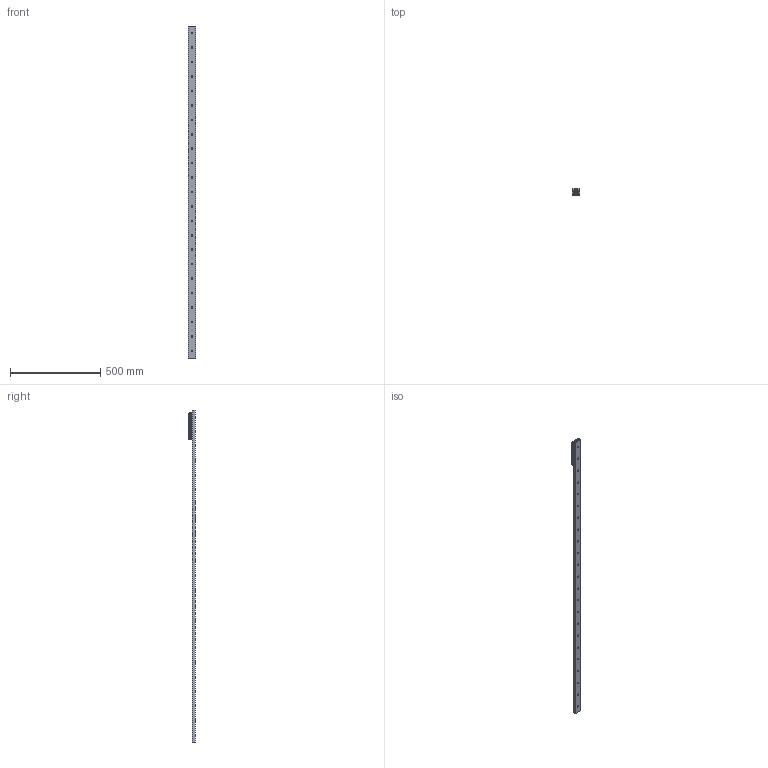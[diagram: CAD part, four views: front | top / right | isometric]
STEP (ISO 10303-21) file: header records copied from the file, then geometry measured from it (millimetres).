
FILE_DESCRIPTION( ( 'STEP AP214' ), '1' );
FILE_NAME( 'p:/temp/worker_55/temp/exporttempdir_3700_73_6gPPk/format_2/TGV-01840_1_RV43G-3.stp', '2021-06-09T19:32:51', ( 'License CC BY-ND 4.0' ), ( 'CADENAS' ), ' ', 'PARTsolutions', ' ' );
FILE_SCHEMA( ( 'AUTOMOTIVE_DESIGN { 1 0 10303 214 1 1 1 1 }' ) );
Length unit declared in the file: millimetre
Products named in the file (6): TGV-01840/1/RV43G-3; _TGV43-1840-(3-1); _RVG43-3-slider; _RGNV43R; _RGAV43R; _WR43G-01
Assembly tree (7 placements, depth 2):
  TGV-01840/1/RV43G-3
    _TGV43-1840-(3-1)
    _RVG43-3-slider
    _RGNV43R  x2
    _RGAV43R
    _WR43G-01  x2
Bounding box: 43 x 37 x 1840 mm (x, y, z)
Volume: 794525.4 mm3; surface area: 319382.8 mm2
Topology: 7 solids, 7 shells, 1087 faces, 2839 edges, 1848 vertices
Faces by surface type: plane 663, cylinder 319, cone 62, bspline 34, torus 9
Full cylindrical faces by diameter (mm): 1.76 x4, 3 x8, 6 x4, 6.647 x4, 6.8 x3, 8 x3, 8.5 x23, 11 x11, 15 x6, 15.5 x1, 18.98 x2, 19 x1, 31.4 x6
Entity records: 26103 total; most frequent: CARTESIAN_POINT 4110, DIRECTION 3497, ORIENTED_EDGE 3202, EDGE_CURVE 1601, AXIS2_PLACEMENT_3D 1345, VERTEX_POINT 1120, EDGE_LOOP 935, LINE 807
